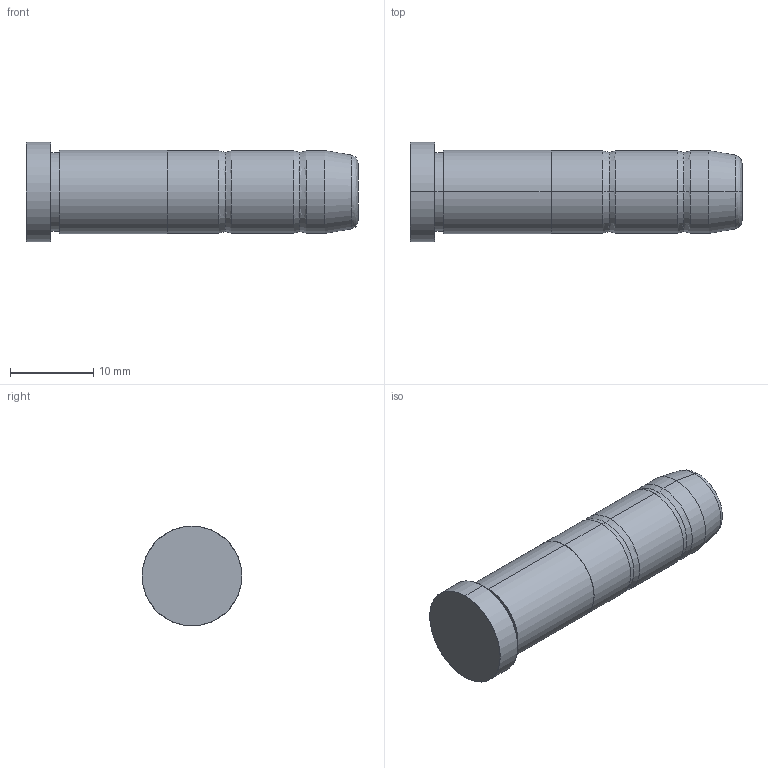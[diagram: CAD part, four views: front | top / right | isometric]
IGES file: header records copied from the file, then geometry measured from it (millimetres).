
Start section: SolidWorks IGES FILE using analytic representation for surfaces
Global section: file name: D:\zzzzz\Delta\D01\10\D01 - 10x17x40.IGS; native system: SolidWorks 2004 by SolidWorks Corporation; preprocessor: Version 5.3; author: Hkn; date: 080326.181335; units: millimetre
Bounding box: 40 x 12 x 12 mm (x, y, z)
Surface area: 1482.7 mm2 (no closed solid volume)
Topology: 0 solids, 0 shells, 29 faces, 352 edges, 352 vertices
Faces by surface type: bspline 15, revolution 14
